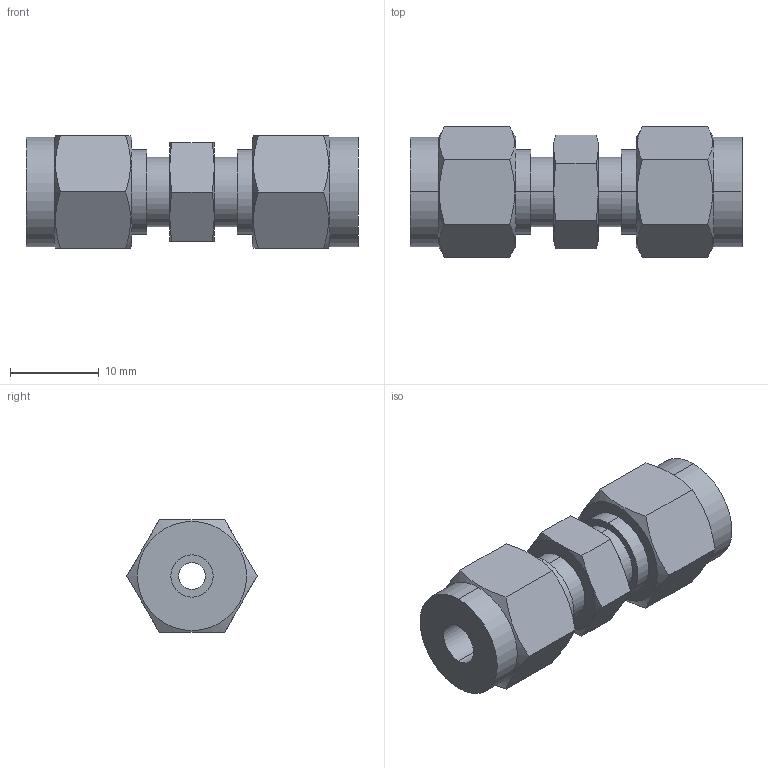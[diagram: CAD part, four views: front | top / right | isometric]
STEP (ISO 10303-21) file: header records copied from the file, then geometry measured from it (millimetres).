
FILE_DESCRIPTION (( 'STEP AP203' ), '1' );
FILE_NAME ('DUA03 SS.STEP', '2009-09-08T10:21:48', ( ' ' ), ( '' ), 'SwSTEP 2.0', 'SolidWorks 2008', '' );
FILE_SCHEMA (( 'CONFIG_CONTROL_DESIGN' ));
Length unit declared in the file: millimetre
Products named in the file (1): DUA03 SS
Bounding box: 37.4 x 14.66 x 12.7 mm (x, y, z)
Volume: 3638 mm3; surface area: 2459.6 mm2
Topology: 1 solids, 1 shells, 66 faces, 152 edges, 96 vertices
Faces by surface type: plane 28, cone 20, cylinder 18
Entity records: 2165 total; most frequent: CARTESIAN_POINT 651, ORIENTED_EDGE 304, DIRECTION 282, EDGE_CURVE 152, AXIS2_PLACEMENT_3D 119, VERTEX_POINT 96, EDGE_LOOP 76, ADVANCED_FACE 66
